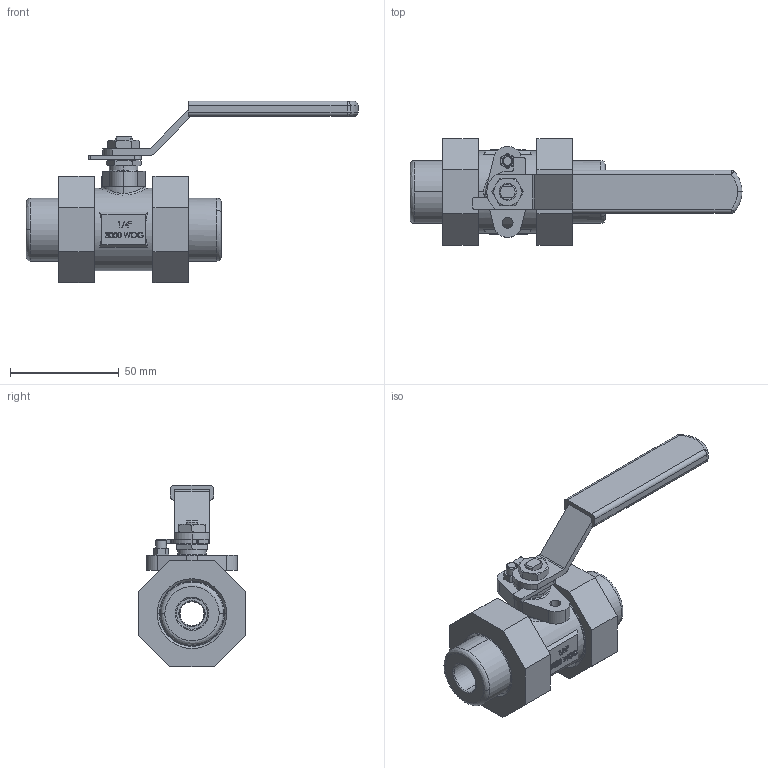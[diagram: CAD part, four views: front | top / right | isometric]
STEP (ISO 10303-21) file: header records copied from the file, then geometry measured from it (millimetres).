
FILE_DESCRIPTION(('Open CASCADE Model'),'2;1');
FILE_NAME('Open CASCADE Shape Model','2021-10-26T10:00:38',('Author'),( 'Open CASCADE'),'Open CASCADE STEP processor 7.3','Open CASCADE 7.3' ,'Unknown');
FILE_SCHEMA(('AUTOMOTIVE_DESIGN { 1 0 10303 214 1 1 1 1 }'));
Length unit declared in the file: millimetre
Products named in the file (24): Open CASCADE STEP translator 7.3 1; Open CASCADE STEP translator 7.3 1.1; Open CASCADE STEP translator 7.3 1.2; Open CASCADE STEP translator 7.3 1.3; Open CASCADE STEP translator 7.3 1.4; Open CASCADE STEP translator 7.3 1.5; Open CASCADE STEP translator 7.3 1.6; Open CASCADE STEP translator 7.3 1.7; Open CASCADE STEP translator 7.3 1.8; Open CASCADE STEP translator 7.3 1.9; Open CASCADE STEP translator 7.3 1.10; Open CASCADE STEP translator 7.3 1.11; Open CASCADE STEP translator 7.3 1.12; Open CASCADE STEP translator 7.3 1.13; Open CASCADE STEP translator 7.3 1.14; Open CASCADE STEP translator 7.3 1.15; Open CASCADE STEP translator 7.3 1.16; Open CASCADE STEP translator 7.3 1.17; Open CASCADE STEP translator 7.3 1.18; Open CASCADE STEP translator 7.3 1.19; Open CASCADE STEP translator 7.3 1.20; Open CASCADE STEP translator 7.3 1.21; Open CASCADE STEP translator 7.3 1.22; Open CASCADE STEP translator 7.3 1.23
Assembly tree (23 placements, depth 2):
  Open CASCADE STEP translator 7.3 1
    Open CASCADE STEP translator 7.3 1.1
    Open CASCADE STEP translator 7.3 1.2
    Open CASCADE STEP translator 7.3 1.3
    Open CASCADE STEP translator 7.3 1.4
    Open CASCADE STEP translator 7.3 1.5
    Open CASCADE STEP translator 7.3 1.6
    Open CASCADE STEP translator 7.3 1.7
    Open CASCADE STEP translator 7.3 1.8
    Open CASCADE STEP translator 7.3 1.9
    Open CASCADE STEP translator 7.3 1.10
    Open CASCADE STEP translator 7.3 1.11
    Open CASCADE STEP translator 7.3 1.12
    Open CASCADE STEP translator 7.3 1.13
    Open CASCADE STEP translator 7.3 1.14
    Open CASCADE STEP translator 7.3 1.15
    Open CASCADE STEP translator 7.3 1.16
    Open CASCADE STEP translator 7.3 1.17
    Open CASCADE STEP translator 7.3 1.18
    Open CASCADE STEP translator 7.3 1.19
    Open CASCADE STEP translator 7.3 1.20
    Open CASCADE STEP translator 7.3 1.21
    Open CASCADE STEP translator 7.3 1.22
    Open CASCADE STEP translator 7.3 1.23
Bounding box: 153 x 49 x 83.7 mm (x, y, z)
Volume: 130143.6 mm3; surface area: 66129.5 mm2
Topology: 23 solids, 23 shells, 824 faces, 2021 edges, 1300 vertices
Faces by surface type: plane 372, cylinder 196, bspline 144, cone 112
Entity records: 87163 total; most frequent: CARTESIAN_POINT 48542, DIRECTION 6462, ORIENTED_EDGE 4034, PCURVE 4034, DEFINITIONAL_REPRESENTATION 4034, LINE 3657, VECTOR 3657, EDGE_CURVE 2017
